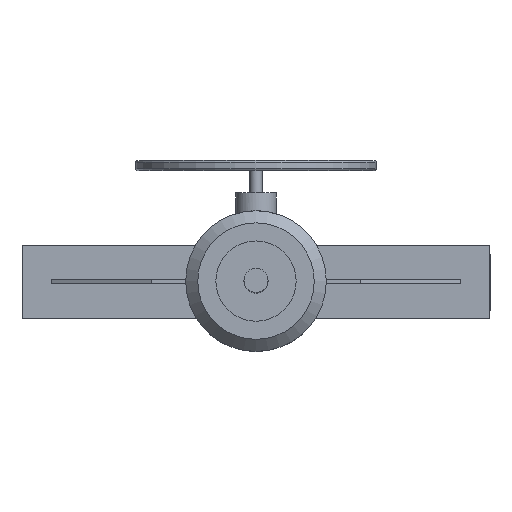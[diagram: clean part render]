
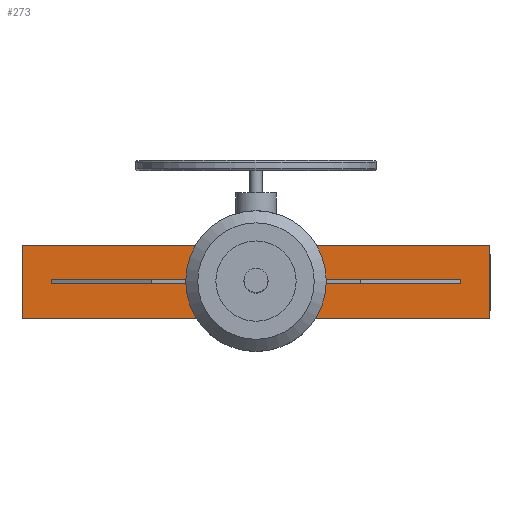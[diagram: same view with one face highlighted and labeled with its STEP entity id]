
A CAD part, top view. The second image highlights one B-rep face of the part: STEP entity #273.
In plain terms, the highlighted planar face has unit normal (0, 0, 1).
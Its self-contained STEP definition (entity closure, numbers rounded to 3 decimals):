
#273=ADVANCED_FACE('',(#2971,#2973),#2975,.T.);
#2971=FACE_BOUND('',#2972,.T.);
#2972=EDGE_LOOP('',(#5267,#5268,#5269,#5270,#5271,#5272,#5273,#5274));
#2973=FACE_BOUND('',#2974,.T.);
#2974=EDGE_LOOP('',(#5275,#5276,#5277,#5278));
#2975=PLANE('',#2976);
#2976=AXIS2_PLACEMENT_3D('',#2977,#2978,#2979);
#2977=CARTESIAN_POINT('',(0.,0.,880.));
#2978=DIRECTION('',(0.,0.,1.));
#2979=DIRECTION('',(1.,0.,0.));
#5267=ORIENTED_EDGE('',*,*,#6559,.F.);
#5268=ORIENTED_EDGE('',*,*,#6557,.T.);
#5269=ORIENTED_EDGE('',*,*,#6570,.T.);
#5270=ORIENTED_EDGE('',*,*,#6563,.T.);
#5271=ORIENTED_EDGE('',*,*,#6562,.F.);
#5272=ORIENTED_EDGE('',*,*,#6567,.T.);
#5273=ORIENTED_EDGE('',*,*,#6571,.T.);
#5274=ORIENTED_EDGE('',*,*,#6553,.T.);
#5275=ORIENTED_EDGE('',*,*,#6572,.F.);
#5276=ORIENTED_EDGE('',*,*,#6573,.F.);
#5277=ORIENTED_EDGE('',*,*,#6574,.F.);
#5278=ORIENTED_EDGE('',*,*,#6575,.F.);
#6553=EDGE_CURVE('',#7262,#7245,#7263,.T.);
#6557=EDGE_CURVE('',#7225,#7268,#7270,.T.);
#6559=EDGE_CURVE('',#7225,#7245,#7272,.T.);
#6562=EDGE_CURVE('',#7239,#7231,#7276,.T.);
#6563=EDGE_CURVE('',#7277,#7231,#7278,.T.);
#6567=EDGE_CURVE('',#7239,#7283,#7285,.T.);
#6570=EDGE_CURVE('',#7268,#7277,#7290,.T.);
#6571=EDGE_CURVE('',#7283,#7262,#7291,.T.);
#6572=EDGE_CURVE('',#7292,#7293,#7294,.T.);
#6573=EDGE_CURVE('',#7295,#7292,#7296,.F.);
#6574=EDGE_CURVE('',#7297,#7295,#7298,.T.);
#6575=EDGE_CURVE('',#7293,#7297,#7299,.T.);
#7225=VERTEX_POINT('',#8434);
#7231=VERTEX_POINT('',#8446);
#7239=VERTEX_POINT('',#8464);
#7245=VERTEX_POINT('',#8476);
#7262=VERTEX_POINT('',#8524);
#7263=LINE('',#8525,#8526);
#7268=VERTEX_POINT('',#8536);
#7270=LINE('',#8540,#8541);
#7272=LINE('',#8546,#8547);
#7276=LINE('',#8557,#8558);
#7277=VERTEX_POINT('',#8560);
#7278=LINE('',#8561,#8562);
#7283=VERTEX_POINT('',#8572);
#7285=LINE('',#8576,#8577);
#7290=LINE('',#8589,#8590);
#7291=LINE('',#8592,#8593);
#7292=VERTEX_POINT('',#8595);
#7293=VERTEX_POINT('',#8596);
#7294=LINE('',#8597,#8598);
#7295=VERTEX_POINT('',#8600);
#7296=LINE('',#8601,#8602);
#7297=VERTEX_POINT('',#8604);
#7298=LINE('',#8605,#8606);
#7299=LINE('',#8608,#8609);
#8434=CARTESIAN_POINT('',(140.,-90.,880.));
#8446=CARTESIAN_POINT('',(140.,90.,880.));
#8464=CARTESIAN_POINT('',(-140.,90.,880.));
#8476=CARTESIAN_POINT('',(-140.,-90.,880.));
#8524=CARTESIAN_POINT('',(-580.,-90.,880.));
#8525=CARTESIAN_POINT('',(-580.,-90.,880.));
#8526=VECTOR('',#8527,1.);
#8527=DIRECTION('',(1.,0.,0.));
#8536=CARTESIAN_POINT('',(580.,-90.,880.));
#8540=CARTESIAN_POINT('',(140.,-90.,880.));
#8541=VECTOR('',#8542,1.);
#8542=DIRECTION('',(1.,0.,0.));
#8546=CARTESIAN_POINT('',(140.,-90.,880.));
#8547=VECTOR('',#8548,1.);
#8548=DIRECTION('',(-1.,0.,0.));
#8557=CARTESIAN_POINT('',(-140.,90.,880.));
#8558=VECTOR('',#8559,1.);
#8559=DIRECTION('',(1.,0.,0.));
#8560=CARTESIAN_POINT('',(580.,90.,880.));
#8561=CARTESIAN_POINT('',(580.,90.,880.));
#8562=VECTOR('',#8563,1.);
#8563=DIRECTION('',(-1.,0.,0.));
#8572=CARTESIAN_POINT('',(-580.,90.,880.));
#8576=CARTESIAN_POINT('',(-140.,90.,880.));
#8577=VECTOR('',#8578,1.);
#8578=DIRECTION('',(-1.,0.,0.));
#8589=CARTESIAN_POINT('',(580.,-90.,880.));
#8590=VECTOR('',#8591,1.);
#8591=DIRECTION('',(0.,1.,0.));
#8592=CARTESIAN_POINT('',(-580.,90.,880.));
#8593=VECTOR('',#8594,1.);
#8594=DIRECTION('',(0.,-1.,0.));
#8595=CARTESIAN_POINT('',(-510.,5.,880.));
#8596=CARTESIAN_POINT('',(-510.,-5.,880.));
#8597=CARTESIAN_POINT('',(-510.,5.,880.));
#8598=VECTOR('',#8599,1.);
#8599=DIRECTION('',(0.,-1.,0.));
#8600=CARTESIAN_POINT('',(510.,5.,880.));
#8601=CARTESIAN_POINT('',(-510.,5.,880.));
#8602=VECTOR('',#8603,1.);
#8603=DIRECTION('',(1.,0.,0.));
#8604=CARTESIAN_POINT('',(510.,-5.,880.));
#8605=CARTESIAN_POINT('',(510.,-5.,880.));
#8606=VECTOR('',#8607,1.);
#8607=DIRECTION('',(0.,1.,0.));
#8608=CARTESIAN_POINT('',(-510.,-5.,880.));
#8609=VECTOR('',#8610,1.);
#8610=DIRECTION('',(1.,0.,0.));
